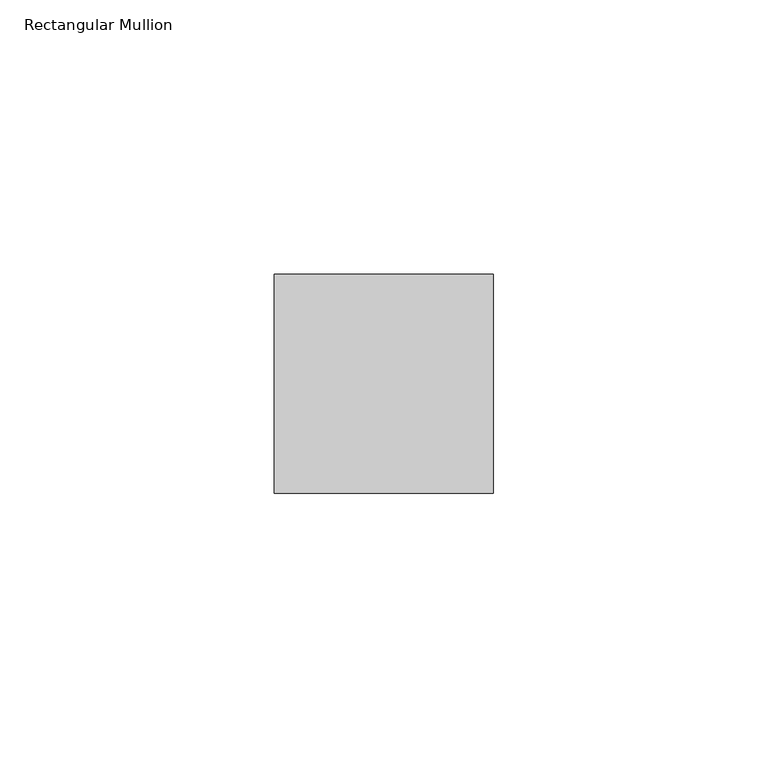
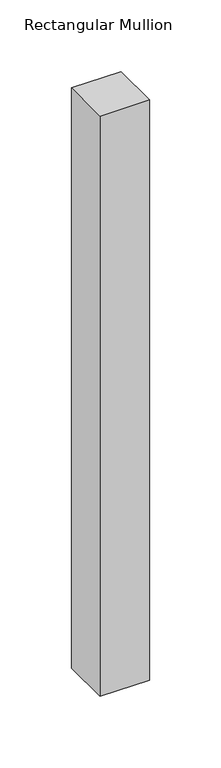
"""IFC4 building model written with IfcOpenShell, lengths in millimetres: member geometry, Rectangular Mullion : Danpal_TP_Interal-Hor-Mullion."""

from ifc_helpers import new_model, si_unit, frame, origin, place, context, project, spatial, polyline, outline, extrude, source, transform, mapped, element, save


def rectangular_mullion_c1ca40f4(model_context):
    return source(origin(), model_context, "Body", "SweptSolid", [
        extrude(outline(polyline([(0.0, 104.1621721), (0.0, 64.1621721), (-40.0, 64.1621721), (-40.0, 104.1621721), (0.0, 104.1621721)])), frame((0.0, 0.0, -495.0), z_axis=(0.0, 0.0, 1.0), x_axis=(1.0, 0.0, 0.0)), (0.0, 0.0, 1.0), 495.0),
    ])


if __name__ == "__main__":
    model = new_model("IFC4")
    model_context = context("Model", 3, world=origin())
    ifc_project = project(units=[si_unit("LENGTHUNIT", "METRE", prefix="MILLI")], contexts=[model_context])
    site = spatial("IfcSite", under=ifc_project)
    building = spatial("IfcBuilding", under=site)
    placement = place(None, origin())
    rectangular_mullion_shape = rectangular_mullion_c1ca40f4(model_context)
    element("IfcMember", 1, ObjectType="Rectangular Mullion : Danpal_TP_Interal-Hor-Mullion", at=placement, inside=building, context=model_context, shape_type="MappedRepresentation", body=[
        mapped(rectangular_mullion_shape, transform((0.0, 0.0, 0.0), x_axis=(1.0, 0.0, 0.0), y_axis=(0.0, 1.0, 0.0), z_axis=(0.0, 0.0, 1.0))),
    ])
    save(model, "model.ifc")
